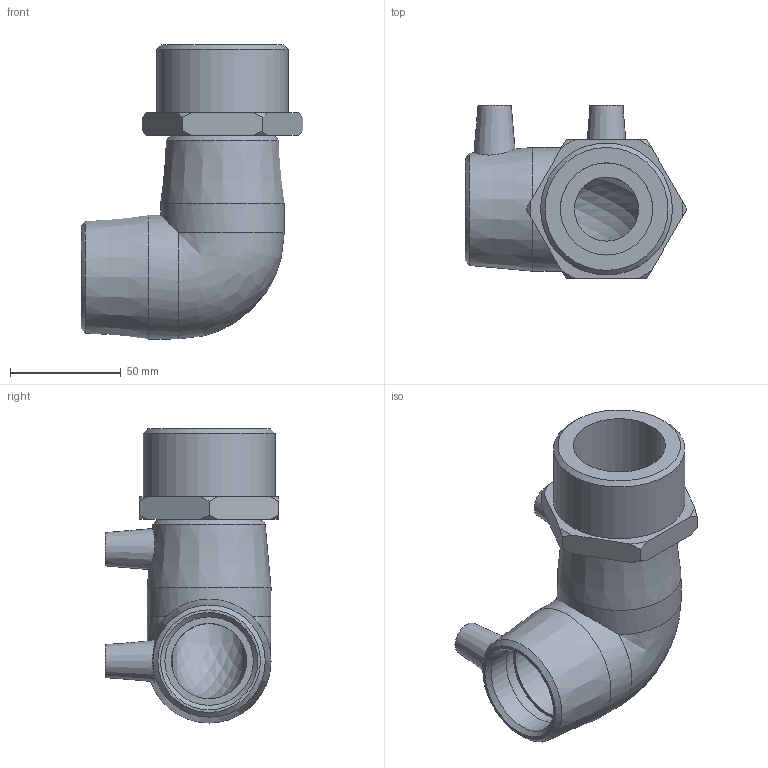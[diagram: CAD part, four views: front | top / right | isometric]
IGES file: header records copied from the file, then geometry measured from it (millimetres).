
Global section: file name: 492504040020.ipt; native system: Autodesk Inventor 2015; preprocessor: unknown; author: KIM; date: 20200202.122344; units: millimetre
Bounding box: 100.4 x 78.52 x 133 mm (x, y, z)
Volume: 240200.4 mm3; surface area: 57890.1 mm2
Topology: 1 solids, 2 shells, 59 faces, 143 edges, 96 vertices
Faces by surface type: plane 22, cone 19, revolution 10, cylinder 7, bspline 1
Full cylindrical faces by diameter (mm): 4 x2, 40 x2, 56 x2, 59.614 x1
